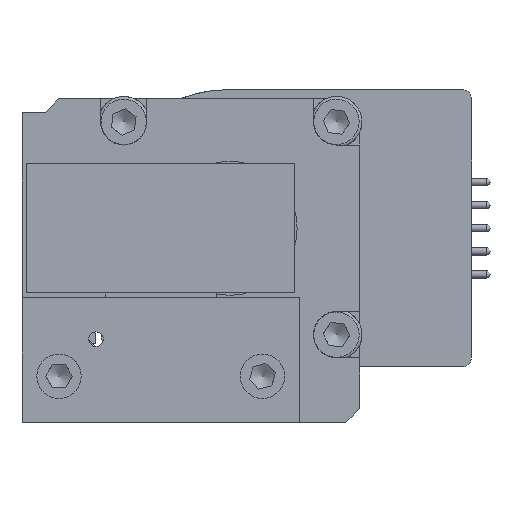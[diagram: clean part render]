
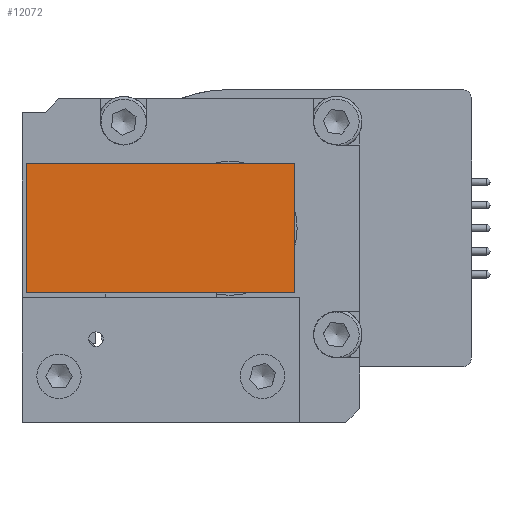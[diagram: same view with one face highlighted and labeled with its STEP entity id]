
A CAD part, left-side view. The second image highlights one B-rep face of the part: STEP entity #12072.
In plain terms, the highlighted planar face has unit normal (-1, 0, 0).
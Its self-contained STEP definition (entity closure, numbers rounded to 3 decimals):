
#1123=LINE($,#21608,#2032);
#1126=LINE($,#21614,#2035);
#1127=LINE($,#21616,#2036);
#1128=LINE($,#21617,#2037);
#2032=VECTOR($,#15792,29.);
#2035=VECTOR($,#15797,14.);
#2036=VECTOR($,#15798,29.);
#2037=VECTOR($,#15799,14.);
#2807=PLANE($,#13051);
#3814=FACE_OUTER_BOUND($,#4801,.T.);
#4801=EDGE_LOOP($,(#11071,#11072,#11073,#11074));
#6294=VERTEX_POINT($,#21605);
#6295=VERTEX_POINT($,#21607);
#6297=VERTEX_POINT($,#21613);
#6298=VERTEX_POINT($,#21615);
#7899=EDGE_CURVE($,#6295,#6294,#1123,.T.);
#7902=EDGE_CURVE($,#6297,#6294,#1126,.T.);
#7903=EDGE_CURVE($,#6297,#6298,#1127,.T.);
#7904=EDGE_CURVE($,#6298,#6295,#1128,.T.);
#11071=ORIENTED_EDGE($,*,*,#7899,.T.);
#11072=ORIENTED_EDGE($,*,*,#7902,.F.);
#11073=ORIENTED_EDGE($,*,*,#7903,.T.);
#11074=ORIENTED_EDGE($,*,*,#7904,.T.);
#12072=ADVANCED_FACE($,(#3814),#2807,.T.);
#13051=AXIS2_PLACEMENT_3D($,#21612,#15795,#15796);
#15792=DIRECTION($,(0.,-1.,0.));
#15795=DIRECTION('center_axis',(-1.,0.,0.));
#15796=DIRECTION('ref_axis',(0.,0.,-1.));
#15797=DIRECTION($,(0.,0.,-1.));
#15798=DIRECTION($,(0.,1.,0.));
#15799=DIRECTION($,(0.,0.,-1.));
#21605=CARTESIAN_POINT('',(-2.217,0.5,14.));
#21607=CARTESIAN_POINT('',(-2.217,29.5,14.));
#21608=CARTESIAN_POINT($,(-2.217,0.5,14.));
#21612=CARTESIAN_POINT('Origin',(-2.217,29.5,28.));
#21613=CARTESIAN_POINT('',(-2.217,0.5,28.));
#21614=CARTESIAN_POINT($,(-2.217,0.5,28.));
#21615=CARTESIAN_POINT('',(-2.217,29.5,28.));
#21616=CARTESIAN_POINT($,(-2.217,0.5,28.));
#21617=CARTESIAN_POINT($,(-2.217,29.5,28.));
